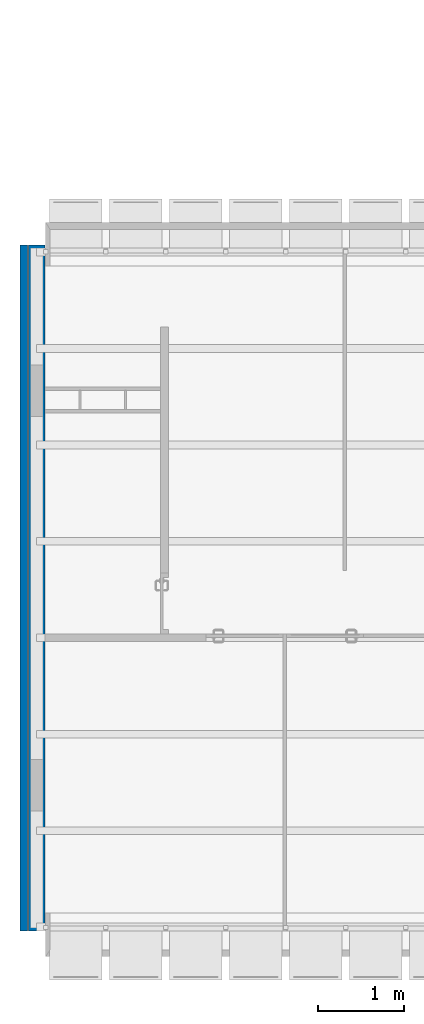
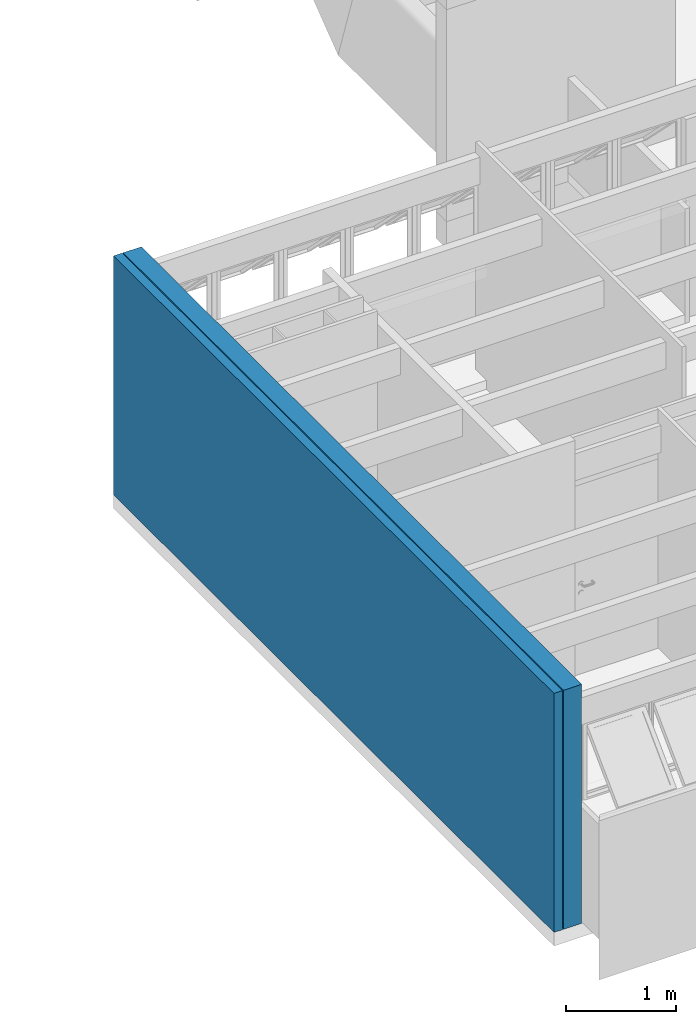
# One storey, part 20 of 40: 2 walls.
"""IFC4 building model written with IfcOpenShell, lengths in millimetres."""

from ifc_helpers import new_model, entity, si_unit, converted_unit, derived_unit, direction, frame, origin_with_axes, place, context, subcontext, project, spatial, line, indexed_curve, outline, extrude, material, layer, layer_set, layer_usage, type_object, element, save


model = new_model("IFC4")

# Units and contexts
model_context = context("Model", 3, precision=0.01, world=origin_with_axes(), true_north=direction((0.0, 1.0)))
body_context = subcontext(model_context, "Body", "Model", "MODEL_VIEW")
ifc_project = project(units=[si_unit("LENGTHUNIT", "METRE", prefix="MILLI"), si_unit("AREAUNIT", "SQUARE_METRE"), si_unit("VOLUMEUNIT", "CUBIC_METRE"), converted_unit("PLANEANGLEUNIT", "DEGREE", entity("IfcPlaneAngleMeasure", 0.0174532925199), si_unit("PLANEANGLEUNIT", "RADIAN"), dimensions=[0, 0, 0, 0, 0, 0, 0]), converted_unit("TIMEUNIT", "Year", entity("IfcTimeMeasure", 31556926.0), si_unit("TIMEUNIT", "SECOND"), dimensions=[0, 0, 1, 0, 0, 0, 0]), si_unit("MASSUNIT", "GRAM", prefix="KILO"), si_unit("THERMODYNAMICTEMPERATUREUNIT", "DEGREE_CELSIUS"), si_unit("LUMINOUSINTENSITYUNIT", "LUMEN"), si_unit("ENERGYUNIT", "JOULE", prefix="MEGA"), derived_unit("THERMALCONDUCTANCEUNIT", [(si_unit("POWERUNIT", "WATT"), 1), (si_unit("LENGTHUNIT", "METRE"), -1), (si_unit("THERMODYNAMICTEMPERATUREUNIT", "KELVIN"), -1)]), derived_unit("SPECIFICHEATCAPACITYUNIT", [(si_unit("ENERGYUNIT", "JOULE"), 1), (si_unit("MASSUNIT", "GRAM", prefix="KILO"), -1), (si_unit("THERMODYNAMICTEMPERATUREUNIT", "KELVIN"), -1)]), derived_unit("MASSDENSITYUNIT", [(si_unit("MASSUNIT", "GRAM", prefix="KILO"), 1), (si_unit("VOLUMEUNIT", "CUBIC_METRE"), -1)])], contexts=[model_context])

# Site, building, storey
site_placement = place(None, origin_with_axes())
site = spatial("IfcSite", under=ifc_project, at=site_placement, Name="Local", CompositionType="ELEMENT")
building_placement = place(site_placement, origin_with_axes())
building = spatial("IfcBuilding", under=site, at=building_placement, Name="Construção", CompositionType="ELEMENT")
storey_placement = place(building_placement, origin_with_axes())
storey = spatial("IfcBuildingStorey", under=building, at=storey_placement, Name="Primeiro Pavimento", CompositionType="ELEMENT", Elevation=0.0)

# Walls
ifc_material = material(Name="GENÉRICO - VEDAÇÃO EXTERNA")
ifc_layer_1 = layer(ifc_material, 190.0, ventilated="UNKNOWN", Name="GENÉRICO - VEDAÇÃO EXTERNA")
ifc_layer_set_1 = layer_set([ifc_layer_1], Name="GENÉRICO - VEDAÇÃO EXTERNA 190")
ifc_layer_usage_1 = layer_usage(ifc_layer_set_1, "AXIS2", "NEGATIVE", 0.0)
wall_type_1 = type_object("IfcWallType", Name="GENÉRICO - VEDAÇÃO EXTERNA 190", PredefinedType="NOTDEFINED")
wall_1_placement = place(storey_placement, frame((290.0, 8300.0, 0.0), z_axis=(0.0, 0.0, 1.0), x_axis=(0.0, -1.0, 0.0)))
element("IfcWall", 1, at=wall_1_placement, inside=storey, type_object=wall_type_1, material=ifc_layer_usage_1, Name="APTO1-PAREDE-013", PredefinedType="NOTDEFINED", context=body_context, shape_type="SweptSolid", body=[
    extrude(outline(indexed_curve([(0.0, -190.0), (8000.0, -190.0), (8000.0, 0.0), (0.0, 0.0)], segments=[line(1, 2, 3, 4, 1)])), origin_with_axes(), (0.0, 0.0, 1.0), 2650.0),
])
ifc_layer_2 = layer(ifc_material, 90.0, ventilated="UNKNOWN", Name="GENÉRICO - VEDAÇÃO EXTERNA")
ifc_layer_set_2 = layer_set([ifc_layer_2], Name="GENÉRICO - VEDAÇÃO EXTERNA 90")
ifc_layer_usage_2 = layer_usage(ifc_layer_set_2, "AXIS2", "NEGATIVE", 0.0)
wall_type_2 = type_object("IfcWallType", Name="GENÉRICO - VEDAÇÃO EXTERNA 90", PredefinedType="NOTDEFINED")
wall_2_placement = place(storey_placement, frame((90.0, 8300.0, 0.0), z_axis=(0.0, 0.0, 1.0), x_axis=(0.0, -1.0, 0.0)))
element("IfcWall", 2, at=wall_2_placement, inside=storey, type_object=wall_type_2, material=ifc_layer_usage_2, Name="APTO1-PAREDE-014", PredefinedType="NOTDEFINED", context=body_context, shape_type="SweptSolid", body=[
    extrude(outline(indexed_curve([(0.0, -90.0), (8000.0, -90.0), (8000.0, 0.0), (0.0, 0.0)], segments=[line(1, 2, 3, 4, 1)])), origin_with_axes(), (0.0, 0.0, 1.0), 2650.0),
])

save(model, "model.ifc")
